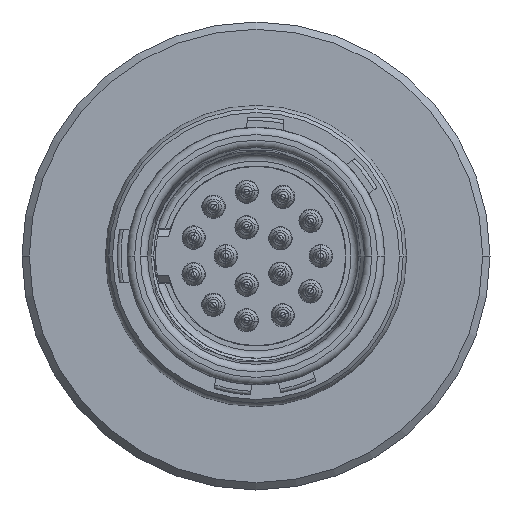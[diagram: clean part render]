
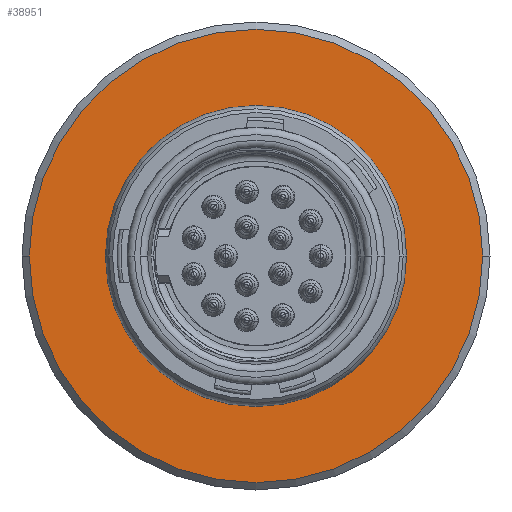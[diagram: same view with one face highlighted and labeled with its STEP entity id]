
A CAD part, left-side view. The second image highlights one B-rep face of the part: STEP entity #38951.
In plain terms, the highlighted planar face has unit normal (-1, 0, 0).
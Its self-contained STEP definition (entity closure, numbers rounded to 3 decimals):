
#11387=CARTESIAN_POINT('',(-5.7,0.,0.));
#11388=DIRECTION('',(-1.,0.,0.));
#11389=DIRECTION('',(0.,1.,0.));
#11390=AXIS2_PLACEMENT_3D('',#11387,#11388,#11389);
#11400=CARTESIAN_POINT('',(-5.7,0.,0.));
#11401=DIRECTION('',(1.,0.,0.));
#11402=DIRECTION('',(0.,1.,0.));
#11403=AXIS2_PLACEMENT_3D('',#11400,#11401,#11402);
#11405=CARTESIAN_POINT('',(-5.7,0.,0.));
#11406=DIRECTION('',(-1.,0.,0.));
#11407=DIRECTION('',(0.,1.,0.));
#11408=AXIS2_PLACEMENT_3D('',#11405,#11406,#11407);
#11414=CARTESIAN_POINT('',(-5.7,0.,0.));
#11415=DIRECTION('',(1.,0.,0.));
#11416=DIRECTION('',(0.,1.,0.));
#11417=AXIS2_PLACEMENT_3D('',#11414,#11415,#11416);
#24170=CARTESIAN_POINT('',(-5.7,6.2,0.));
#24171=VERTEX_POINT('',#24170);
#24172=CARTESIAN_POINT('',(-5.7,-6.2,0.));
#24173=VERTEX_POINT('',#24172);
#24260=CARTESIAN_POINT('',(-5.7,3.941,0.));
#24262=VERTEX_POINT('',#24260);
#24266=CARTESIAN_POINT('',(-5.7,-3.941,0.));
#24268=VERTEX_POINT('',#24266);
#38936=CARTESIAN_POINT('',(-5.7,0.,0.));
#38937=DIRECTION('',(-1.,0.,0.));
#38938=DIRECTION('',(0.,-1.,0.));
#38939=AXIS2_PLACEMENT_3D('',#38936,#38937,#38938);
#38940=PLANE('',#38939);
#38941=ORIENTED_EDGE('',*,*,#38901,.F.);
#38942=ORIENTED_EDGE('',*,*,#38924,.T.);
#38943=EDGE_LOOP('',(#38941,#38942));
#38944=FACE_OUTER_BOUND('',#38943,.F.);
#38946=ORIENTED_EDGE('',*,*,#38945,.T.);
#38948=ORIENTED_EDGE('',*,*,#38947,.F.);
#38949=EDGE_LOOP('',(#38946,#38948));
#38950=FACE_BOUND('',#38949,.F.);
#11391=CIRCLE('',#11390,6.2);
#11404=CIRCLE('',#11403,6.2);
#11409=CIRCLE('',#11408,3.941);
#11418=CIRCLE('',#11417,3.941);
#38901=EDGE_CURVE('',#24171,#24173,#11391,.T.);
#38924=EDGE_CURVE('',#24171,#24173,#11404,.T.);
#38945=EDGE_CURVE('',#24262,#24268,#11409,.T.);
#38947=EDGE_CURVE('',#24262,#24268,#11418,.T.);
#38951=ADVANCED_FACE('',(#38944,#38950),#38940,.T.);
